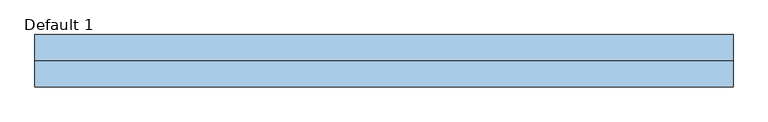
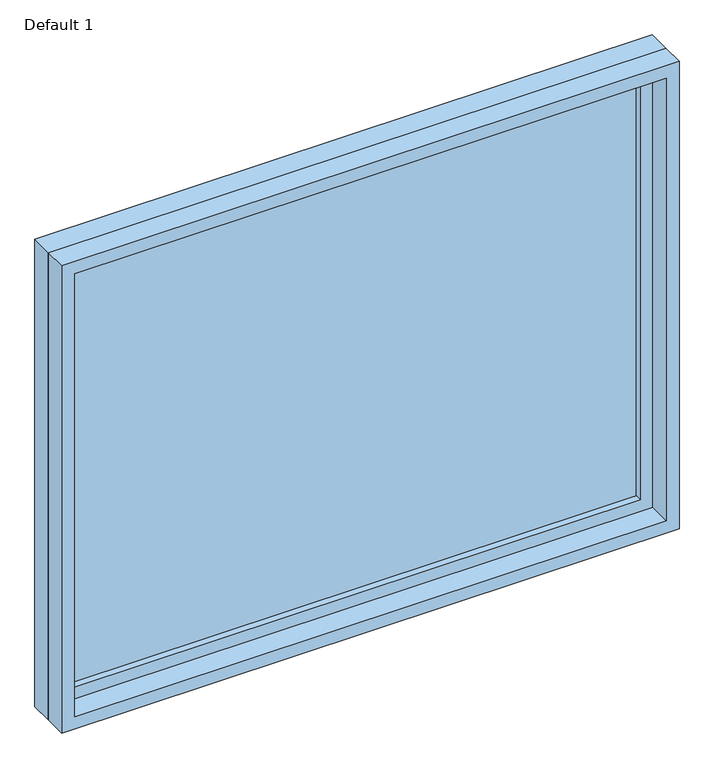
"""IFC4 building model written with IfcOpenShell, lengths in millimetres: window geometry, Planitar-Fixed : Default 1."""

from ifc_helpers import new_model, si_unit, frame, origin, place, context, project, spatial, polyline, outline, extrude, source, transform, mapped, element, save


def default_1_19df42c6(model_context):
    return source(origin(), model_context, "Body", "SweptSolid", [
        extrude(outline(polyline([(2114.6, -743.0), (933.4, -743.0), (933.4, 743.0), (2114.6, 743.0), (2114.6, -743.0)]), holes=[polyline([(2070.6, -699.0), (2070.6, 699.0), (977.4, 699.0), (977.4, -699.0), (2070.6, -699.0)])]), frame((0.0, 13.45, 0.0), z_axis=(0.0, 1.0, 0.0), x_axis=(0.0, 0.0, 1.0)), (0.0, 0.0, 1.0), 44.0),
        extrude(outline(polyline([(2133.6, -762.0), (914.4, -762.0), (914.4, 762.0), (2133.6, 762.0), (2133.6, -762.0)]), holes=[polyline([(2114.6, -743.0), (2114.6, 743.0), (933.4, 743.0), (933.4, -743.0), (2114.6, -743.0)])]), frame((0.0, 13.45, 0.0), z_axis=(0.0, 1.0, 0.0), x_axis=(0.0, 0.0, 1.0)), (0.0, 0.0, 1.0), 56.7),
        extrude(outline(polyline([(2133.6, -762.0), (914.4, -762.0), (914.4, 762.0), (2133.6, 762.0), (2133.6, -762.0)]), holes=[polyline([(2101.6, -730.0), (2101.6, 730.0), (946.4, 730.0), (946.4, -730.0), (2101.6, -730.0)])]), frame((0.0, -44.15, 0.0), z_axis=(0.0, 1.0, 0.0), x_axis=(0.0, 0.0, 1.0)), (0.0, 0.0, 1.0), 57.6),
        extrude(outline(polyline([(-699.0, 41.45), (699.0, 41.45), (699.0, 29.45), (-699.0, 29.45), (-699.0, 41.45)])), frame((0.0, 0.0, 977.4), z_axis=(0.0, 0.0, 1.0), x_axis=(1.0, 0.0, 0.0)), (0.0, 0.0, 1.0), 1093.2),
    ])


if __name__ == "__main__":
    model = new_model("IFC4")
    model_context = context("Model", 3, world=origin())
    ifc_project = project(units=[si_unit("LENGTHUNIT", "METRE", prefix="MILLI")], contexts=[model_context])
    site = spatial("IfcSite", under=ifc_project)
    building = spatial("IfcBuilding", under=site)
    placement = place(None, origin())
    default_1_shape = default_1_19df42c6(model_context)
    element("IfcWindow", 1, ObjectType="Planitar-Fixed : Default 1", at=placement, inside=building, context=model_context, shape_type="MappedRepresentation", body=[
        mapped(default_1_shape, transform((0.0, 0.0, 0.0), x_axis=(1.0, 0.0, 0.0), y_axis=(0.0, 1.0, 0.0), z_axis=(0.0, 0.0, 1.0))),
    ])
    save(model, "model.ifc")
